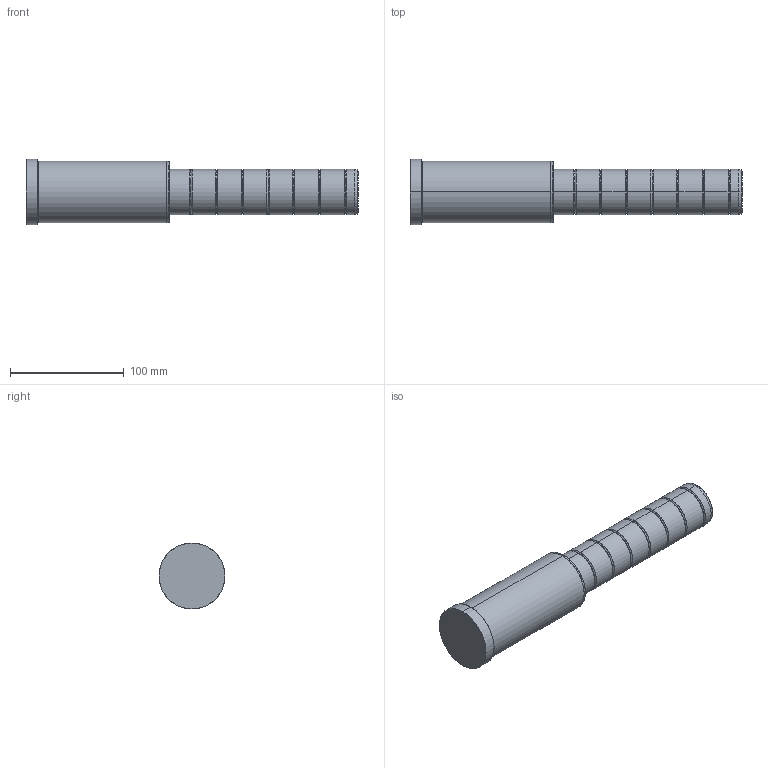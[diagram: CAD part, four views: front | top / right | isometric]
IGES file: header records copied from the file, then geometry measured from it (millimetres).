
Start section: SolidWorks IGES file using analytic representation for surfaces
Global section: file name: C:\Documents and Settings\kalite-mail\Desktop\IGS\D02\40\D02 - 40x126x166.IGS; native system: SolidWorks 2008; preprocessor: SolidWorks 2008; author: kalite-mail; date: 080617.102918; units: millimetre
Bounding box: 292 x 58 x 58 mm (x, y, z)
Surface area: 48374.2 mm2 (no closed solid volume)
Topology: 0 solids, 0 shells, 66 faces, 880 edges, 880 vertices
Faces by surface type: bspline 38, revolution 28
